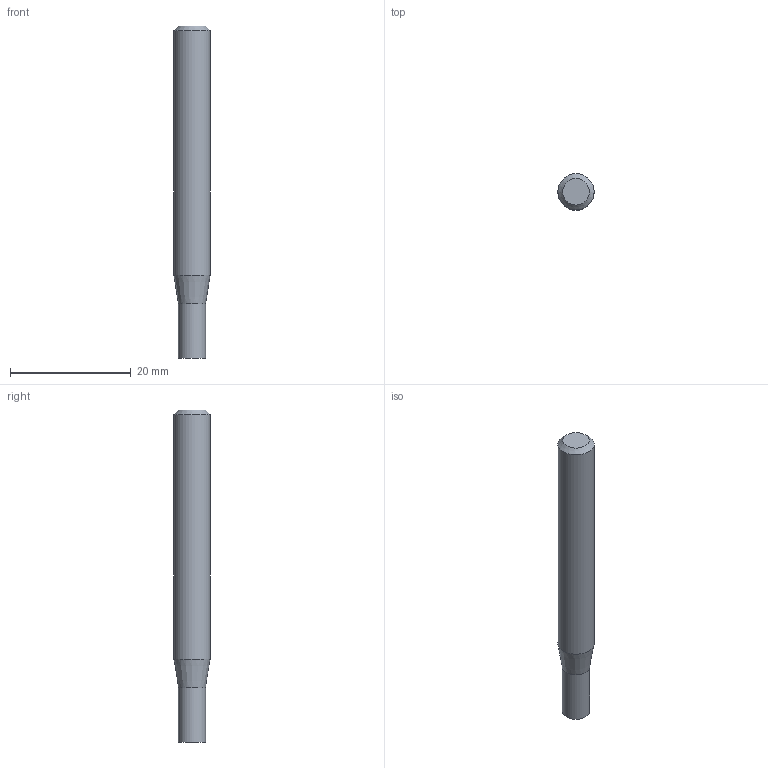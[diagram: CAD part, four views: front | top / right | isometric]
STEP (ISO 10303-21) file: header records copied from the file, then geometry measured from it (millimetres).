
FILE_DESCRIPTION((''),'2;1');
FILE_NAME('C:\Users\nsx150\AppData\Local\Temp\Mastercam 2021\QTW1OOEEGF\TEMP.step','2021-04-08T10:36:54',(''),(''),'STEP Write','Mastercam 2021 ... CNC Software, Inc.','');
FILE_SCHEMA(('AUTOMOTIVE_DESIGN'));
Length unit declared in the file: millimetre
Products named in the file (1): None
Bounding box: 6 x 6 x 55 mm (x, y, z)
Volume: 1407.6 mm3; surface area: 1050.5 mm2
Topology: 2 solids, 2 shells, 8 faces, 10 edges, 6 vertices
Faces by surface type: plane 4, cylinder 2, cone 2
Full cylindrical faces by diameter (mm): 4.5 x1, 6 x1
Entity records: 190 total; most frequent: DIRECTION 32, CARTESIAN_POINT 22, AXIS2_PLACEMENT_3D 16, ORIENTED_EDGE 12, EDGE_LOOP 12, STYLED_ITEM 11, ADVANCED_FACE 8, VERTEX_POINT 6
